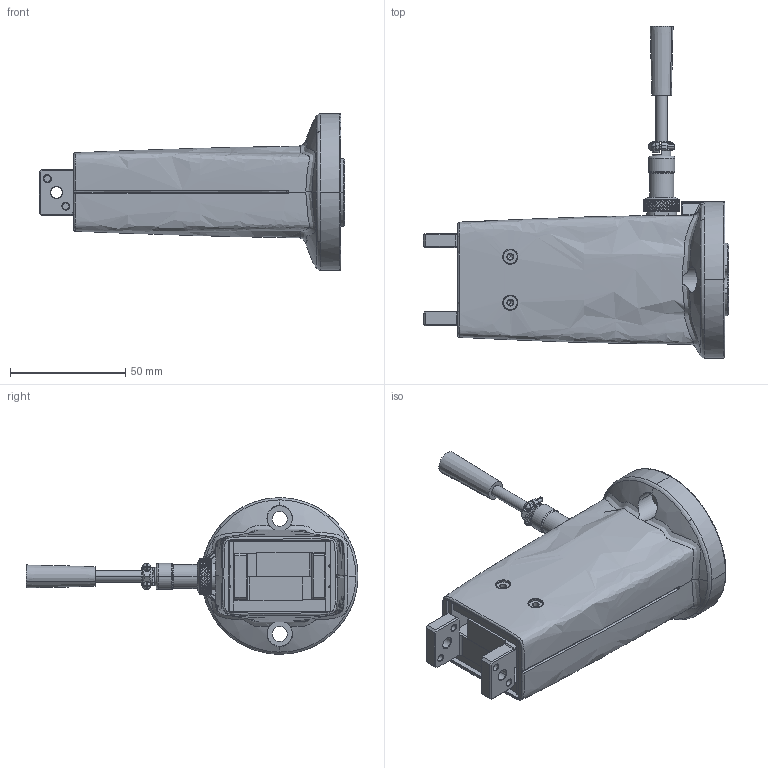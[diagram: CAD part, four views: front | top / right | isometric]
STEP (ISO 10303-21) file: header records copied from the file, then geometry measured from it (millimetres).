
FILE_DESCRIPTION(('CATIA V5 STEP Exchange'),'2;1');
FILE_NAME('F:\工作文件GP\EFG 对外资料\EFG对外资料\EFG-R\EFG-R.stp','2018-09-27T03:41:37+00:00',('none'),('none'),'CATIA Version 5 Release 20 GA (IN-10)','CATIA V5 STEP AP203','none');
FILE_SCHEMA(('CONFIG_CONTROL_DESIGN'));
Products named in the file (8): EFG-R; 101-110-00; Z-110-0003-01; CHAZUO_ASM; Z-110-0008-01; 101-110-00-0005-00; Z-110-01-0001-00; CHATOU_ASM
Assembly tree (30 placements, depth 5):
  EFG-R
    #58
    101-110-00
      #25455
      #28081
      Z-110-0003-01
        #30325
        CHAZUO_ASM
          #32960
          #36236
          #36865
      Z-110-0008-01
        101-110-00-0005-00
          #37616
        Z-110-01-0001-00
          #40310
          #41639  x2
      #43305  x4
    #44033
    CHATOU_ASM
      #45308
      #47945
      #50102
      #51231  x2
      #52622
      #110084
Bounding box: 132.7 x 144.22 x 68 mm (x, y, z)
Volume: 207329.3 mm3; surface area: 105984.3 mm2
Topology: 23 solids, 27 shells, 2764 faces, 7289 edges, 4576 vertices
Faces by surface type: bspline 1341, plane 618, cylinder 603, cone 123, torus 44, sphere 35
Entity records: 107850 total; most frequent: CARTESIAN_POINT 59566, ORIENTED_EDGE 13662, EDGE_CURVE 6837, DIRECTION 4549, VERTEX_POINT 4335, B_SPLINE_CURVE_WITH_KNOTS 3588, EDGE_LOOP 2760, ADVANCED_FACE 2604
